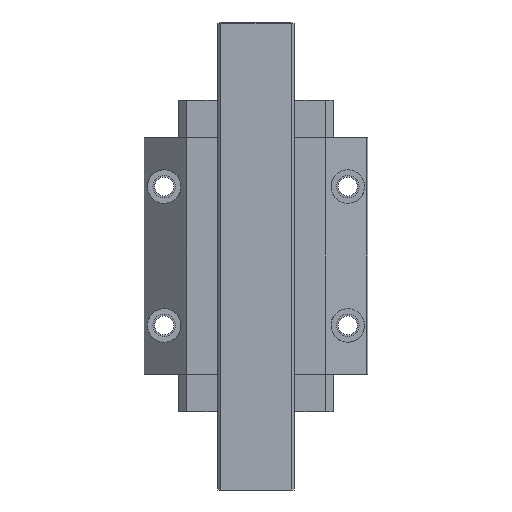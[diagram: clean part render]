
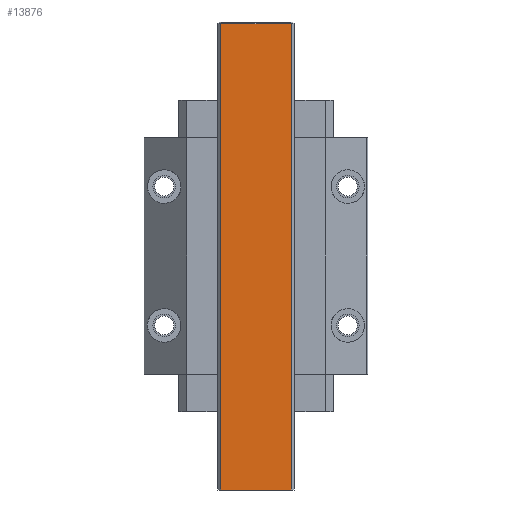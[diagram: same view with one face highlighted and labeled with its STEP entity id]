
A CAD part, front view. The second image highlights one B-rep face of the part: STEP entity #13876.
In plain terms, the highlighted planar face has unit normal (0, -1, 0).
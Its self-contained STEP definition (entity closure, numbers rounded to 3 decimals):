
#12837=DIRECTION('',(1.,0.,0.));
#12838=VECTOR('',#12837,31.6);
#12839=CARTESIAN_POINT('',(-15.8,-18.5,-104.5));
#12840=LINE('',#12839,#12838);
#13110=DIRECTION('',(1.,0.,0.));
#13111=VECTOR('',#13110,31.6);
#13112=CARTESIAN_POINT('',(-15.8,-18.5,103.634));
#13113=LINE('',#13112,#13111);
#13114=DIRECTION('',(0.,0.,1.));
#13115=VECTOR('',#13114,208.134);
#13116=CARTESIAN_POINT('',(-15.8,-18.5,-104.5));
#13117=LINE('',#13116,#13115);
#13122=DIRECTION('',(0.,0.,1.));
#13123=VECTOR('',#13122,208.134);
#13124=CARTESIAN_POINT('',(15.8,-18.5,-104.5));
#13125=LINE('',#13124,#13123);
#13308=CARTESIAN_POINT('',(-15.8,-18.5,-104.5));
#13309=VERTEX_POINT('',#13308);
#13310=CARTESIAN_POINT('',(15.8,-18.5,-104.5));
#13311=VERTEX_POINT('',#13310);
#13372=CARTESIAN_POINT('',(15.8,-18.5,103.634));
#13373=VERTEX_POINT('',#13372);
#13376=CARTESIAN_POINT('',(-15.8,-18.5,103.634));
#13377=VERTEX_POINT('',#13376);
#13864=CARTESIAN_POINT('',(-15.8,-18.5,-104.5));
#13865=DIRECTION('',(0.,-1.,0.));
#13866=DIRECTION('',(1.,0.,0.));
#13867=AXIS2_PLACEMENT_3D('',#13864,#13865,#13866);
#13868=PLANE('',#13867);
#13869=ORIENTED_EDGE('',*,*,#13855,.T.);
#13871=ORIENTED_EDGE('',*,*,#13870,.F.);
#13872=ORIENTED_EDGE('',*,*,#13457,.F.);
#13873=ORIENTED_EDGE('',*,*,#13830,.T.);
#13874=EDGE_LOOP('',(#13869,#13871,#13872,#13873));
#13875=FACE_OUTER_BOUND('',#13874,.F.);
#13457=EDGE_CURVE('',#13309,#13311,#12840,.T.);
#13830=EDGE_CURVE('',#13309,#13377,#13117,.T.);
#13855=EDGE_CURVE('',#13377,#13373,#13113,.T.);
#13870=EDGE_CURVE('',#13311,#13373,#13125,.T.);
#13876=ADVANCED_FACE('',(#13875),#13868,.T.);
